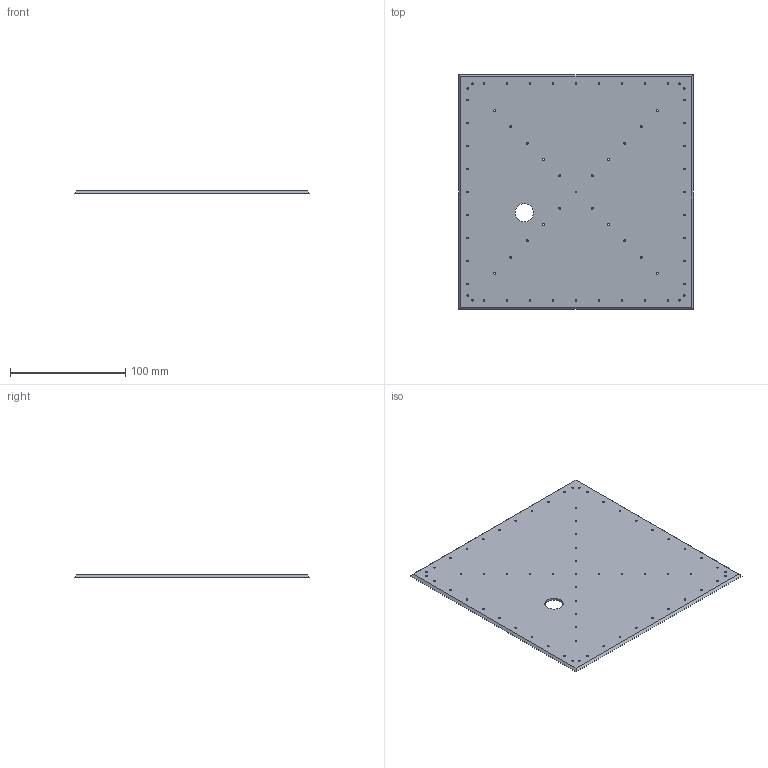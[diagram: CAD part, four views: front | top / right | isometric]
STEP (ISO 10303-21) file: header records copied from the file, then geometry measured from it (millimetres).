
FILE_DESCRIPTION (( 'STEP AP214' ), '1' );
FILE_NAME ('SC5.STEP', '2016-02-27T07:58:41', ( '' ), ( '' ), 'SwSTEP 2.0', 'SolidWorks 2012', '' );
FILE_SCHEMA (( 'AUTOMOTIVE_DESIGN' ));
Length unit declared in the file: millimetre
Products named in the file (1): SC5
Bounding box: 204 x 204 x 2 mm (x, y, z)
Volume: 80947.2 mm3; surface area: 83991.8 mm2
Topology: 1 solids, 1 shells, 138 faces, 408 edges, 272 vertices
Faces by surface type: cylinder 132, plane 6
Entity records: 5074 total; most frequent: DIRECTION 950, CARTESIAN_POINT 819, ORIENTED_EDGE 816, EDGE_CURVE 408, AXIS2_PLACEMENT_3D 403, VERTEX_POINT 272, EDGE_LOOP 270, CIRCLE 264
